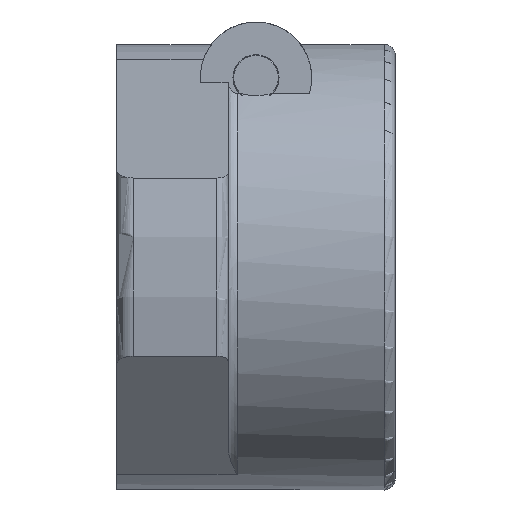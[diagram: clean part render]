
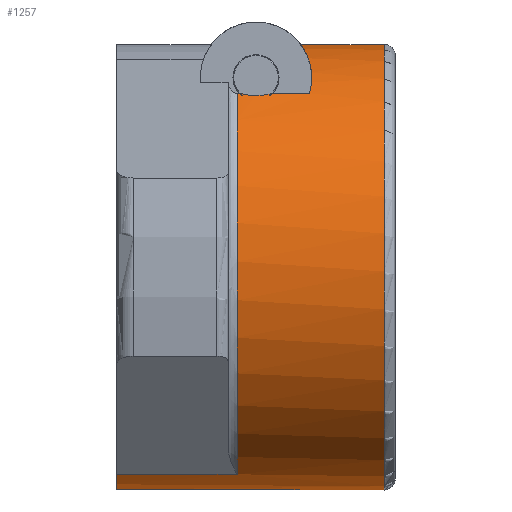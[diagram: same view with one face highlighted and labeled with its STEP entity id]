
A CAD part, front view. The second image highlights one B-rep face of the part: STEP entity #1257.
In plain terms, the highlighted cylindrical face has radius 20 mm (diameter 40 mm), a partial arc.
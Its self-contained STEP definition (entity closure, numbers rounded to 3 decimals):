
#1043=CARTESIAN_POINT('',(10.8,-12.5,15.612));
#1044=VERTEX_POINT('',#1043);
#1080=CARTESIAN_POINT('',(10.8,-7.374,-18.591));
#1081=VERTEX_POINT('',#1080);
#1089=CARTESIAN_POINT('',(10.8,0.0,0.0));
#1090=DIRECTION('',(-1.,0.0,0.0));
#1091=DIRECTION('',(0.0,-0.989,-0.148));
#1092=AXIS2_PLACEMENT_3D('',#1089,#1090,#1091);
#1093=CIRCLE('',#1092,20.);
#1094=EDGE_CURVE('',#1081,#1044,#1093,.T.);
#1106=CARTESIAN_POINT('',(10.968,-12.5,15.612));
#1107=VERTEX_POINT('',#1106);
#1108=CARTESIAN_POINT('',(10.968,-12.5,15.612));
#1109=DIRECTION('',(-1.0,0.0,0.0));
#1110=VECTOR('',#1109,0.168);
#1111=LINE('',#1108,#1110);
#1112=EDGE_CURVE('',#1107,#1044,#1111,.T.);
#1114=CARTESIAN_POINT('',(14.032,-12.5,15.612));
#1115=VERTEX_POINT('',#1114);
#1123=CARTESIAN_POINT('',(17.304,-12.5,15.612));
#1124=VERTEX_POINT('',#1123);
#1125=CARTESIAN_POINT('',(17.304,-12.5,15.612));
#1126=DIRECTION('',(-1.0,0.0,0.0));
#1127=VECTOR('',#1126,3.272);
#1128=LINE('',#1125,#1127);
#1129=EDGE_CURVE('',#1124,#1115,#1128,.T.);
#1141=CARTESIAN_POINT('',(0.0,0.0,0.0));
#1142=DIRECTION('',(1.0,0.0,0.0));
#1143=DIRECTION('',(0.0,1.0,0.0));
#1144=AXIS2_PLACEMENT_3D('',#1141,#1142,#1143);
#1145=CYLINDRICAL_SURFACE('',#1144,20.0);
#1146=ORIENTED_EDGE('',*,*,#1094,.F.);
#1147=CARTESIAN_POINT('',(0.0,-7.374,-18.591));
#1148=VERTEX_POINT('',#1147);
#1149=CARTESIAN_POINT('',(0.0,-7.374,-18.591));
#1150=DIRECTION('',(1.0,0.0,0.0));
#1151=VECTOR('',#1150,10.8);
#1152=LINE('',#1149,#1151);
#1153=EDGE_CURVE('',#1148,#1081,#1152,.T.);
#1154=ORIENTED_EDGE('',*,*,#1153,.F.);
#1155=CARTESIAN_POINT('',(0.0,7.374,-18.591));
#1156=VERTEX_POINT('',#1155);
#1157=CARTESIAN_POINT('',(0.0,0.0,0.0));
#1158=DIRECTION('',(1.0,0.0,0.0));
#1159=DIRECTION('',(0.0,1.0,0.0));
#1160=AXIS2_PLACEMENT_3D('',#1157,#1158,#1159);
#1161=CIRCLE('',#1160,20.0);
#1162=EDGE_CURVE('',#1148,#1156,#1161,.T.);
#1163=ORIENTED_EDGE('',*,*,#1162,.T.);
#1164=CARTESIAN_POINT('',(10.8,7.374,-18.591));
#1165=VERTEX_POINT('',#1164);
#1166=CARTESIAN_POINT('',(0.0,7.374,-18.591));
#1167=DIRECTION('',(1.0,0.0,0.0));
#1168=VECTOR('',#1167,10.8);
#1169=LINE('',#1166,#1168);
#1170=EDGE_CURVE('',#1156,#1165,#1169,.T.);
#1171=ORIENTED_EDGE('',*,*,#1170,.T.);
#1172=CARTESIAN_POINT('',(10.8,15.772,12.298));
#1173=VERTEX_POINT('',#1172);
#1174=CARTESIAN_POINT('',(10.8,0.0,0.0));
#1175=DIRECTION('',(-1.,0.0,0.0));
#1176=DIRECTION('',(0.0,0.968,-0.251));
#1177=AXIS2_PLACEMENT_3D('',#1174,#1175,#1176);
#1178=CIRCLE('',#1177,20.);
#1179=EDGE_CURVE('',#1173,#1165,#1178,.T.);
#1180=ORIENTED_EDGE('',*,*,#1179,.F.);
#1181=CARTESIAN_POINT('',(12.5,16.,12.));
#1182=VERTEX_POINT('',#1181);
#1183=CARTESIAN_POINT('',(10.8,15.772,12.298));
#1184=CARTESIAN_POINT('',(11.212,15.888,12.149));
#1185=CARTESIAN_POINT('',(11.663,15.962,12.051));
#1186=CARTESIAN_POINT('',(12.1,15.988,12.016));
#1187=CARTESIAN_POINT('',(12.236,15.996,12.005));
#1188=CARTESIAN_POINT('',(12.369,16.,12.));
#1189=CARTESIAN_POINT('',(12.5,16.,12.));
#1190=B_SPLINE_CURVE_WITH_KNOTS('',3,(#1183,#1184,#1185,#1186,#1187,#1188,#1189),.UNSPECIFIED.,.F.,.U.,(4,3,4),(1.903,2.03,2.07),.UNSPECIFIED.);
#1191=EDGE_CURVE('',#1173,#1182,#1190,.T.);
#1192=ORIENTED_EDGE('',*,*,#1191,.T.);
#1193=CARTESIAN_POINT('',(24.,16.,12.));
#1194=VERTEX_POINT('',#1193);
#1195=CARTESIAN_POINT('',(12.5,16.,12.));
#1196=DIRECTION('',(1.0,0.0,0.0));
#1197=VECTOR('',#1196,11.5);
#1198=LINE('',#1195,#1197);
#1199=EDGE_CURVE('',#1182,#1194,#1198,.T.);
#1200=ORIENTED_EDGE('',*,*,#1199,.T.);
#1201=CARTESIAN_POINT('',(24.,-1.,19.975));
#1202=VERTEX_POINT('',#1201);
#1203=CARTESIAN_POINT('',(24.,0.0,0.0));
#1204=DIRECTION('',(1.,0.0,0.0));
#1205=DIRECTION('',(0.0,-0.425,-0.905));
#1206=AXIS2_PLACEMENT_3D('',#1203,#1204,#1205);
#1207=CIRCLE('',#1206,20.0);
#1208=EDGE_CURVE('',#1202,#1194,#1207,.T.);
#1209=ORIENTED_EDGE('',*,*,#1208,.F.);
#1210=CARTESIAN_POINT('',(16.519,-1.,19.975));
#1211=VERTEX_POINT('',#1210);
#1212=CARTESIAN_POINT('',(24.,-1.,19.975));
#1213=DIRECTION('',(-1.0,0.,0.));
#1214=VECTOR('',#1213,7.481);
#1215=LINE('',#1212,#1214);
#1216=EDGE_CURVE('',#1202,#1211,#1215,.T.);
#1217=ORIENTED_EDGE('',*,*,#1216,.T.);
#1218=CARTESIAN_POINT('',(16.519,-1.,19.975));
#1219=CARTESIAN_POINT('',(16.562,-2.178,19.916));
#1220=CARTESIAN_POINT('',(16.687,-3.365,19.751));
#1221=CARTESIAN_POINT('',(16.841,-4.528,19.481));
#1222=CARTESIAN_POINT('',(17.037,-6.004,19.138));
#1223=CARTESIAN_POINT('',(17.276,-7.441,18.624));
#1224=CARTESIAN_POINT('',(17.406,-8.785,17.967));
#1225=CARTESIAN_POINT('',(17.51,-9.871,17.436));
#1226=CARTESIAN_POINT('',(17.546,-10.896,16.812));
#1227=CARTESIAN_POINT('',(17.422,-11.839,16.119));
#1228=CARTESIAN_POINT('',(17.392,-12.064,15.954));
#1229=CARTESIAN_POINT('',(17.353,-12.285,15.785));
#1230=CARTESIAN_POINT('',(17.304,-12.5,15.612));
#1231=B_SPLINE_CURVE_WITH_KNOTS('',3,(#1218,#1219,#1220,#1221,#1222,#1223,#1224,#1225,#1226,#1227,#1228,#1229,#1230),.UNSPECIFIED.,.F.,.U.,(4,3,3,3,4),(4.239,4.589,5.034,5.393,5.479),.UNSPECIFIED.);
#1232=EDGE_CURVE('',#1211,#1124,#1231,.T.);
#1233=ORIENTED_EDGE('',*,*,#1232,.T.);
#1234=ORIENTED_EDGE('',*,*,#1129,.T.);
#1235=CARTESIAN_POINT('',(14.032,-12.5,15.612));
#1236=CARTESIAN_POINT('',(13.74,-12.598,15.534));
#1237=CARTESIAN_POINT('',(13.409,-12.686,15.462));
#1238=CARTESIAN_POINT('',(13.078,-12.733,15.423));
#1239=CARTESIAN_POINT('',(12.892,-12.759,15.401));
#1240=CARTESIAN_POINT('',(12.705,-12.773,15.39));
#1241=CARTESIAN_POINT('',(12.528,-12.774,15.389));
#1242=CARTESIAN_POINT('',(12.392,-12.775,15.388));
#1243=CARTESIAN_POINT('',(12.253,-12.769,15.393));
#1244=CARTESIAN_POINT('',(12.11,-12.755,15.405));
#1245=CARTESIAN_POINT('',(11.758,-12.721,15.433));
#1246=CARTESIAN_POINT('',(11.395,-12.637,15.502));
#1247=CARTESIAN_POINT('',(11.073,-12.534,15.585));
#1248=CARTESIAN_POINT('',(11.038,-12.523,15.594));
#1249=CARTESIAN_POINT('',(11.002,-12.512,15.603));
#1250=CARTESIAN_POINT('',(10.968,-12.5,15.612));
#1251=B_SPLINE_CURVE_WITH_KNOTS('',3,(#1235,#1236,#1237,#1238,#1239,#1240,#1241,#1242,#1243,#1244,#1245,#1246,#1247,#1248,#1249,#1250),.UNSPECIFIED.,.F.,.U.,(4,3,3,3,3,4),(1.91,2.004,2.057,2.097,2.197,2.209),.UNSPECIFIED.);
#1252=EDGE_CURVE('',#1115,#1107,#1251,.T.);
#1253=ORIENTED_EDGE('',*,*,#1252,.T.);
#1254=ORIENTED_EDGE('',*,*,#1112,.T.);
#1255=EDGE_LOOP('',(#1146,#1154,#1163,#1171,#1180,#1192,#1200,#1209,#1217,#1233,#1234,#1253,#1254));
#1256=FACE_OUTER_BOUND('',#1255,.T.);
#1257=ADVANCED_FACE('',(#1256),#1145,.T.);
